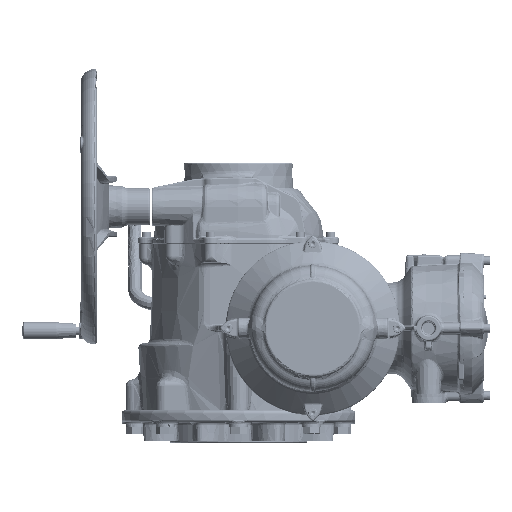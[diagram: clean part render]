
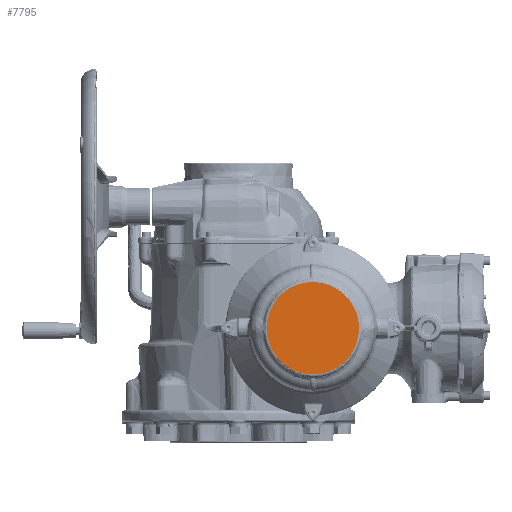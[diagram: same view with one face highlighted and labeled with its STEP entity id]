
A CAD part, left-side view. The second image highlights one B-rep face of the part: STEP entity #7795.
In plain terms, the highlighted planar face has unit normal (-1, 0, 0).
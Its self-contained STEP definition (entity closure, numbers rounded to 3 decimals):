
#7795 = ADVANCED_FACE( '', ( #22089 ), #22090, .T. );
#22089 = FACE_OUTER_BOUND( '', #60409, .T. );
#22090 = PLANE( '', #60410 );
#60409 = EDGE_LOOP( '', ( #402626 ) );
#60410 = AXIS2_PLACEMENT_3D( '', #402627, #402628, #402629 );
#402626 = ORIENTED_EDGE( '', *, *, #458007, .T. );
#402627 = CARTESIAN_POINT( '', ( -487.8, -108., 0. ) );
#402628 = DIRECTION( '', ( -1., 0., 0. ) );
#402629 = DIRECTION( '', ( 0., 0., -1. ) );
#458007 = EDGE_CURVE( '', #482964, #482964, #482965, .T. );
#482964 = VERTEX_POINT( '', #532658 );
#482965 = CIRCLE( '', #532659, 67.19 );
#532658 = CARTESIAN_POINT( '', ( -487.8, -108., -67.19 ) );
#532659 = AXIS2_PLACEMENT_3D( '', #697775, #697776, #697777 );
#697775 = CARTESIAN_POINT( '', ( -487.8, -108., 0. ) );
#697776 = DIRECTION( '', ( -1., 0., 0. ) );
#697777 = DIRECTION( '', ( 0., 0., -1. ) );
